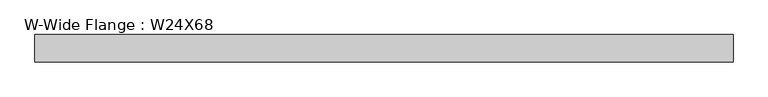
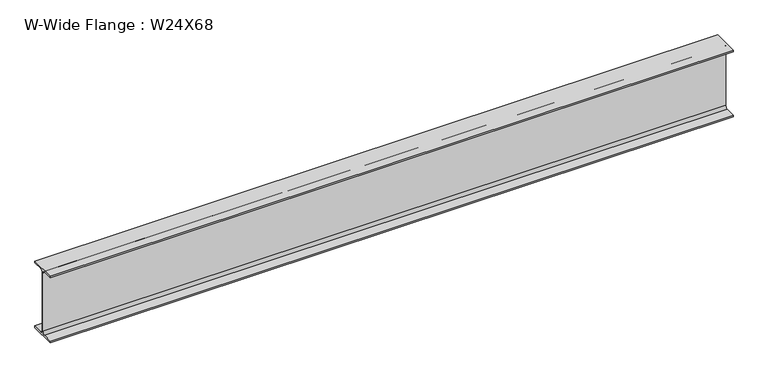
"""IFC4 building model written with IfcOpenShell, lengths in millimetres: beam geometry, W-Wide Flange : W24X68."""

import ifcopenshell
import ifcopenshell.guid

model = None  # the IFC model being written
_history = None  # IfcOwnerHistory: only IFC2X3 demands one
_inside = {}  # id of a spatial element -> (the spatial element, [elements in it])
_under = {}  # id of a project, library or spatial element -> (it, [spatial elements below it])
_declared = {}  # id of a project -> (the project, [libraries it declares])
_typed = {}  # id of a type object -> (the type object, [elements of that type])
_made_of = {}  # id of a material, layer set ... -> (it, [elements and type objects made of it])


def new_model(schema):
    """Start an empty IFC model of exactly this schema.

    Asked for "IFC4X3", IfcOpenShell would pick the latest addendum, in which some entities
    have other attributes; the version numbers below select the first issue.
    IFC2X3 requires an IfcOwnerHistory on every rooted entity: one is made here for all.
    """
    global model, _history
    if schema == "IFC4X3":
        model = ifcopenshell.file(schema_version=(4, 3, 0, 0))
    else:
        model = ifcopenshell.file(schema=schema)
    _inside.clear()
    _under.clear()
    _declared.clear()
    _typed.clear()
    _made_of.clear()
    _history = None
    if model.schema == "IFC2X3":
        org = make("IfcOrganization", Name="unknown")
        user = make(
            "IfcPersonAndOrganization",
            ThePerson=make("IfcPerson", FamilyName="unknown"),
            TheOrganization=org,
        )
        app = make(
            "IfcApplication",
            ApplicationDeveloper=org,
            Version="unknown",
            ApplicationFullName="unknown",
            ApplicationIdentifier="unknown",
        )
        _history = make(
            "IfcOwnerHistory",
            OwningUser=user,
            OwningApplication=app,
            ChangeAction="ADDED",
            CreationDate=0,
        )
    return model


def make(cls, **values):
    """One entity of the class cls with the attributes given. An attribute that is None is left unset."""
    return model.create_entity(
        cls, **{name: value for name, value in values.items() if value is not None}
    )


def rooted(cls, **values):
    """An entity with a GlobalId (a new one), such as an element, a storey or a relation."""
    return make(cls, GlobalId=ifcopenshell.guid.new(), OwnerHistory=_history, **values)


def si_unit(unit_type, name, prefix=None):
    """IfcSIUnit, for example si_unit("LENGTHUNIT", "METRE", prefix="MILLI")."""
    return make("IfcSIUnit", UnitType=unit_type, Prefix=prefix, Name=name)


def assignment(units):
    """IfcUnitAssignment: the units of a project."""
    return None if units is None else make("IfcUnitAssignment", Units=units)


def point(xyz):
    """IfcCartesianPoint."""
    return None if xyz is None else make("IfcCartesianPoint", Coordinates=xyz)


def direction(xyz):
    """IfcDirection."""
    return None if xyz is None else make("IfcDirection", DirectionRatios=xyz)


def frame(location, z_axis=None, x_axis=None):
    """IfcAxis2Placement3D, a coordinate frame: its origin and axes. An axis left out is left unset."""
    return make(
        "IfcAxis2Placement3D",
        Location=point(location),
        Axis=direction(z_axis),
        RefDirection=direction(x_axis),
    )


def frame_2d(location, x_axis=None):
    """IfcAxis2Placement2D, a coordinate frame in the plane: its origin and x axis."""
    return make(
        "IfcAxis2Placement2D", Location=point(location), RefDirection=direction(x_axis)
    )


def origin():
    """The frame at (0, 0, 0) with its axes left unset."""
    return frame((0.0, 0.0, 0.0))


def place(relative_to, where):
    """IfcLocalPlacement: puts the frame where relative to a parent placement (None: the world)."""
    return make(
        "IfcLocalPlacement", PlacementRelTo=relative_to, RelativePlacement=where
    )


def context(
    kind, dimensions, precision=None, world=None, true_north=None, identifier=None
):
    """IfcGeometricRepresentationContext, for example the 3D "Model" context."""
    return make(
        "IfcGeometricRepresentationContext",
        ContextIdentifier=identifier,
        ContextType=kind,
        CoordinateSpaceDimension=dimensions,
        Precision=precision,
        WorldCoordinateSystem=world,
        TrueNorth=true_north,
    )


def project(units=None, contexts=None):
    """IfcProject with its units and contexts."""
    return rooted(
        "IfcProject",
        Name="project",
        RepresentationContexts=contexts,
        UnitsInContext=assignment(units),
    )


def spatial(cls, under=None, at=None, **own):
    """A site, building, storey or space (cls), placed at a placement, below another one or the project."""
    s = rooted(cls, ObjectPlacement=at, **own)
    if under is not None:
        _under.setdefault(under.id(), (under, []))[1].append(s)
    return s


def polyline(points):
    """IfcPolyline through the points."""
    return make("IfcPolyline", Points=[point(p) for p in points])


def circle_curve(where, radius):
    """IfcCircle in the frame where."""
    return make("IfcCircle", Position=where, Radius=radius)


def trimmed(basis, trim1, trim2, sense, master):
    """IfcTrimmedCurve: the piece of a basis curve between two trims."""
    return make(
        "IfcTrimmedCurve",
        BasisCurve=basis,
        Trim1=trim1,
        Trim2=trim2,
        SenseAgreement=sense,
        MasterRepresentation=master,
    )


def segment(curve, same_sense, transition):
    """IfcCompositeCurveSegment."""
    return make(
        "IfcCompositeCurveSegment",
        Transition=transition,
        SameSense=same_sense,
        ParentCurve=curve,
    )


def composite_curve(segments, self_intersect=None):
    """IfcCompositeCurve: segments joined end to end."""
    return make("IfcCompositeCurve", Segments=segments, SelfIntersect=self_intersect)


def outline(outer, holes=None, kind="AREA"):
    """IfcArbitraryClosedProfileDef: a profile drawn as a closed curve; with holes, ...WithVoids."""
    if holes is None:
        return make("IfcArbitraryClosedProfileDef", ProfileType=kind, OuterCurve=outer)
    return make(
        "IfcArbitraryProfileDefWithVoids",
        ProfileType=kind,
        OuterCurve=outer,
        InnerCurves=holes,
    )


def extrude(swept, where, along, depth):
    """IfcExtrudedAreaSolid: the profile swept, set in the frame where, extruded along a direction by depth."""
    return make(
        "IfcExtrudedAreaSolid",
        SweptArea=swept,
        Position=where,
        ExtrudedDirection=direction(along),
        Depth=depth,
    )


def shape(context_of_items, identifier, shape_type, items):
    """IfcShapeRepresentation: the items that make up one representation, for example the "Body"."""
    return make(
        "IfcShapeRepresentation",
        ContextOfItems=context_of_items,
        RepresentationIdentifier=identifier,
        RepresentationType=shape_type,
        Items=items,
    )


def source(mapping_origin, context_of_items, identifier, shape_type, items):
    """IfcRepresentationMap: a shape defined once, which mapped items show again and again."""
    return make(
        "IfcRepresentationMap",
        MappingOrigin=mapping_origin,
        MappedRepresentation=shape(context_of_items, identifier, shape_type, items),
    )


def transform(
    local_origin,
    x_axis=None,
    y_axis=None,
    z_axis=None,
    scale=None,
    scale2=None,
    scale3=None,
    uniform=True,
):
    """IfcCartesianTransformationOperator3D, or its non-uniform kind. x_axis, y_axis, z_axis: its Axis1, 2, 3."""
    if uniform:
        return make(
            "IfcCartesianTransformationOperator3D",
            Axis1=direction(x_axis),
            Axis2=direction(y_axis),
            LocalOrigin=point(local_origin),
            Scale=scale,
            Axis3=direction(z_axis),
        )
    return make(
        "IfcCartesianTransformationOperator3DnonUniform",
        Axis1=direction(x_axis),
        Axis2=direction(y_axis),
        LocalOrigin=point(local_origin),
        Scale=scale,
        Axis3=direction(z_axis),
        Scale2=scale2,
        Scale3=scale3,
    )


def mapped(mapping_source, mapping_target):
    """IfcMappedItem: shows the shape of a source again, moved by a transform."""
    return make(
        "IfcMappedItem", MappingSource=mapping_source, MappingTarget=mapping_target
    )


def made_of(thing, what):
    """Note that an element or type object is made of a material, layer set ...; save() writes the relation."""
    if what is not None:
        _made_of.setdefault(what.id(), (what, []))[1].append(thing)
    return thing


def element(
    cls,
    number,
    at=None,
    inside=None,
    cuts=None,
    type_object=None,
    material=None,
    context=None,
    identifier="Body",
    shape_type=None,
    held_by="IfcProductDefinitionShape",
    body=None,
    shapes=None,
    **own,
):
    """One element of the class cls, such as IfcWall. Its Tag is "e" and its number.

    at: its placement. inside: the storey or other place that contains it. cuts: it is an
    opening in that element (IfcRelVoidsElement). A single representation is given by context,
    identifier, shape_type and body (its items); several are given by shapes. held_by: the class
    of the entity that holds the representations. save() writes the other relations.
    """
    e = rooted(cls, Tag="e%d" % number, ObjectPlacement=at, **own)
    if body is not None:
        shapes = [shape(context, identifier, shape_type, body)]
    if shapes is not None:
        e.Representation = make(held_by, Representations=shapes)
    if inside is not None:
        _inside.setdefault(inside.id(), (inside, []))[1].append(e)
    if cuts is not None:
        rooted(
            "IfcRelVoidsElement", RelatingBuildingElement=cuts, RelatedOpeningElement=e
        )
    if type_object is not None:
        _typed.setdefault(type_object.id(), (type_object, []))[1].append(e)
    return made_of(e, material)


def aggregate(whole, parts):
    """IfcRelAggregates: a whole, such as a stair, and the parts it consists of."""
    return rooted("IfcRelAggregates", RelatingObject=whole, RelatedObjects=parts)


def save(model, path):
    """Write the relations noted so far, then the file.

    IfcRelAggregates (storeys below a building ...), IfcRelContainedInSpatialStructure (elements
    in a storey), IfcRelDefinesByType, IfcRelAssociatesMaterial and IfcRelDeclares: one each for
    every whole, place, type object, material and project.
    """
    for whole, parts in _under.values():
        aggregate(whole, parts)
    for where, things in _inside.values():
        rooted(
            "IfcRelContainedInSpatialStructure",
            RelatedElements=things,
            RelatingStructure=where,
        )
    for kind, things in _typed.values():
        rooted("IfcRelDefinesByType", RelatedObjects=things, RelatingType=kind)
    for what, things in _made_of.values():
        rooted("IfcRelAssociatesMaterial", RelatedObjects=things, RelatingMaterial=what)
    for by, libraries in _declared.values():
        rooted("IfcRelDeclares", RelatingContext=by, RelatedDefinitions=libraries)
    model.write(path)


def w_wide_flange_w24x68_925eba65(model_context):
    return source(origin(), model_context, "Body", "SweptSolid", [
        extrude(outline(composite_curve([segment(polyline([(-113.919, -286.131), (-28.5115, -286.131)]), True, "CONTINUOUS"), segment(trimmed(circle_curve(frame_2d((-28.5115, -262.89)), 23.241), [point((-28.5115, -286.131))], [point((-5.2705, -262.89))], True, "CARTESIAN"), True, "CONTINUOUS"), segment(polyline([(-5.2705, -262.89), (-5.2705, 262.89)]), True, "CONTINUOUS"), segment(trimmed(circle_curve(frame_2d((-28.5115, 262.89)), 23.241), [point((-5.2705, 262.89))], [point((-28.5115, 286.131))], True, "CARTESIAN"), True, "CONTINUOUS"), segment(polyline([(-28.5115, 286.131), (-113.919, 286.131), (-113.919, 300.99), (113.919, 300.99), (113.919, 286.131), (28.5115, 286.131)]), True, "CONTINUOUS"), segment(trimmed(circle_curve(frame_2d((28.5115, 262.89)), 23.241), [point((28.5115, 286.131))], [point((5.2705, 262.89))], True, "CARTESIAN"), True, "CONTINUOUS"), segment(polyline([(5.2705, 262.89), (5.2705, -262.89)]), True, "CONTINUOUS"), segment(trimmed(circle_curve(frame_2d((28.5115, -262.89)), 23.241), [point((5.2705, -262.89))], [point((28.5115, -286.131))], True, "CARTESIAN"), True, "CONTINUOUS"), segment(polyline([(28.5115, -286.131), (113.919, -286.131), (113.919, -300.99), (-113.919, -300.99), (-113.919, -286.131)]), True, "CONTINUOUS")], self_intersect=False)), frame((-2921.381, 0.0, 0.0), z_axis=(1.0, 0.0, 0.0), x_axis=(0.0, 1.0, 0.0)), (0.0, 0.0, 1.0), 5842.762),
    ])


if __name__ == "__main__":
    model = new_model("IFC4")
    model_context = context("Model", 3, world=origin())
    ifc_project = project(units=[si_unit("LENGTHUNIT", "METRE", prefix="MILLI")], contexts=[model_context])
    site = spatial("IfcSite", under=ifc_project)
    building = spatial("IfcBuilding", under=site)
    placement = place(None, origin())
    w_wide_flange_w24x68_shape = w_wide_flange_w24x68_925eba65(model_context)
    element("IfcBeam", 1, ObjectType="W-Wide Flange : W24X68", at=placement, inside=building, context=model_context, shape_type="MappedRepresentation", body=[
        mapped(w_wide_flange_w24x68_shape, transform((0.0, 0.0, 0.0), x_axis=(1.0, 0.0, 0.0), y_axis=(0.0, 1.0, 0.0), z_axis=(0.0, 0.0, 1.0))),
    ])
    save(model, "model.ifc")
